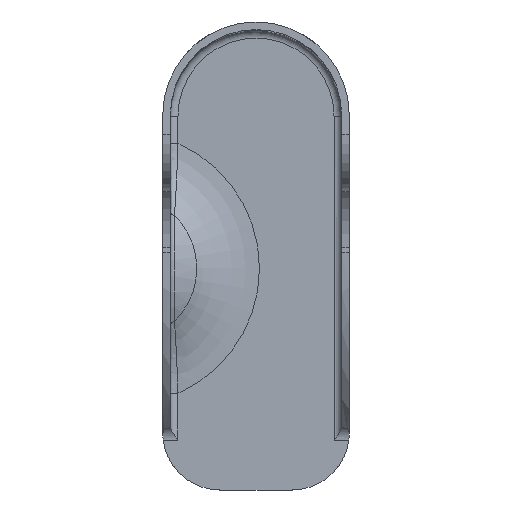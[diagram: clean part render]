
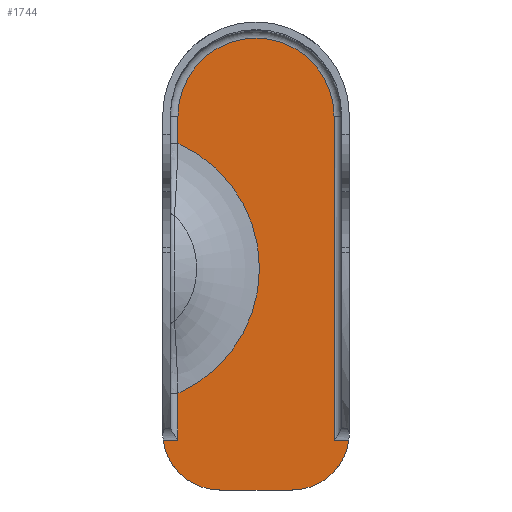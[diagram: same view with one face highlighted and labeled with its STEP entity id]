
A CAD part, top view. The second image highlights one B-rep face of the part: STEP entity #1744.
In plain terms, the highlighted planar face has unit normal (0, 0, 1).
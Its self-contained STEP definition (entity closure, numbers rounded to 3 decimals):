
#68=PLANE('',#1847);
#83=LINE('',#2441,#156);
#86=LINE('',#2537,#159);
#88=LINE('',#2553,#161);
#89=LINE('',#2570,#162);
#90=LINE('',#2572,#163);
#91=LINE('',#2576,#164);
#156=VECTOR('',#1978,10.);
#159=VECTOR('',#1999,10.);
#161=VECTOR('',#2011,10.);
#162=VECTOR('',#2022,10.);
#163=VECTOR('',#2023,10.);
#164=VECTOR('',#2026,10.);
#292=FACE_OUTER_BOUND('',#364,.T.);
#364=EDGE_LOOP('',(#1232,#1233,#1234,#1235,#1236,#1237,#1238,#1239,#1240,
#1241));
#492=CIRCLE('',#1841,20.5);
#494=CIRCLE('',#1846,35.906);
#495=CIRCLE('',#1848,15.);
#496=CIRCLE('',#1849,15.);
#695=VERTEX_POINT('',#2428);
#697=VERTEX_POINT('',#2440);
#704=VERTEX_POINT('',#2519);
#706=VERTEX_POINT('',#2533);
#708=VERTEX_POINT('',#2539);
#712=VERTEX_POINT('',#2552);
#713=VERTEX_POINT('',#2569);
#714=VERTEX_POINT('',#2571);
#715=VERTEX_POINT('',#2573);
#716=VERTEX_POINT('',#2575);
#909=EDGE_CURVE('',#695,#697,#83,.T.);
#924=EDGE_CURVE('',#704,#706,#86,.T.);
#927=EDGE_CURVE('',#706,#708,#492,.T.);
#930=EDGE_CURVE('',#708,#712,#88,.T.);
#933=EDGE_CURVE('',#697,#704,#494,.T.);
#934=EDGE_CURVE('',#713,#712,#89,.T.);
#935=EDGE_CURVE('',#695,#714,#90,.T.);
#936=EDGE_CURVE('',#714,#715,#495,.T.);
#937=EDGE_CURVE('',#715,#716,#91,.T.);
#938=EDGE_CURVE('',#716,#713,#496,.T.);
#1232=ORIENTED_EDGE('',*,*,#934,.T.);
#1233=ORIENTED_EDGE('',*,*,#930,.F.);
#1234=ORIENTED_EDGE('',*,*,#927,.F.);
#1235=ORIENTED_EDGE('',*,*,#924,.F.);
#1236=ORIENTED_EDGE('',*,*,#933,.F.);
#1237=ORIENTED_EDGE('',*,*,#909,.F.);
#1238=ORIENTED_EDGE('',*,*,#935,.T.);
#1239=ORIENTED_EDGE('',*,*,#936,.T.);
#1240=ORIENTED_EDGE('',*,*,#937,.T.);
#1241=ORIENTED_EDGE('',*,*,#938,.T.);
#1744=ADVANCED_FACE('',(#292),#68,.T.);
#1841=AXIS2_PLACEMENT_3D('',#2543,#2006,#2007);
#1846=AXIS2_PLACEMENT_3D('',#2567,#2018,#2019);
#1847=AXIS2_PLACEMENT_3D('',#2568,#2020,#2021);
#1848=AXIS2_PLACEMENT_3D('',#2574,#2024,#2025);
#1849=AXIS2_PLACEMENT_3D('',#2577,#2027,#2028);
#1978=DIRECTION('',(0.,1.,0.));
#1999=DIRECTION('',(0.,1.,0.));
#2006=DIRECTION('center_axis',(0.,0.,-1.));
#2007=DIRECTION('ref_axis',(0.,1.,0.));
#2011=DIRECTION('',(0.,-1.,0.));
#2018=DIRECTION('center_axis',(0.,0.,1.));
#2019=DIRECTION('ref_axis',(1.,0.,0.));
#2020=DIRECTION('center_axis',(0.,0.,1.));
#2021=DIRECTION('ref_axis',(1.,0.,0.));
#2022=DIRECTION('',(-1.,0.,0.));
#2023=DIRECTION('',(-1.,0.,0.));
#2024=DIRECTION('center_axis',(0.,0.,1.));
#2025=DIRECTION('ref_axis',(1.,0.,0.));
#2026=DIRECTION('',(1.,0.,0.));
#2027=DIRECTION('center_axis',(0.,0.,1.));
#2028=DIRECTION('ref_axis',(1.,0.,0.));
#2428=CARTESIAN_POINT('',(-20.5,-85.109,2.));
#2440=CARTESIAN_POINT('',(-20.5,-72.848,2.));
#2441=CARTESIAN_POINT('',(-20.5,-60.525,2.));
#2519=CARTESIAN_POINT('',(-20.5,-7.152,2.));
#2533=CARTESIAN_POINT('',(-20.5,0.,2.));
#2537=CARTESIAN_POINT('',(-20.5,-60.525,2.));
#2539=CARTESIAN_POINT('',(20.5,0.,2.));
#2543=CARTESIAN_POINT('Origin',(0.,0.,2.));
#2552=CARTESIAN_POINT('',(20.5,-85.109,2.));
#2553=CARTESIAN_POINT('',(20.5,-18.925,2.));
#2567=CARTESIAN_POINT('Origin',(-35.,-40.,2.));
#2568=CARTESIAN_POINT('Origin',(0.,-37.85,2.));
#2569=CARTESIAN_POINT('',(24.378,-85.109,2.));
#2570=CARTESIAN_POINT('',(11.25,-85.109,2.));
#2571=CARTESIAN_POINT('',(-24.378,-85.109,2.));
#2572=CARTESIAN_POINT('',(-12.25,-85.109,2.));
#2573=CARTESIAN_POINT('',(-9.5,-98.2,2.));
#2574=CARTESIAN_POINT('Origin',(-9.5,-83.2,2.));
#2575=CARTESIAN_POINT('',(9.5,-98.2,2.));
#2576=CARTESIAN_POINT('',(-9.5,-98.2,2.));
#2577=CARTESIAN_POINT('Origin',(9.5,-83.2,2.));
